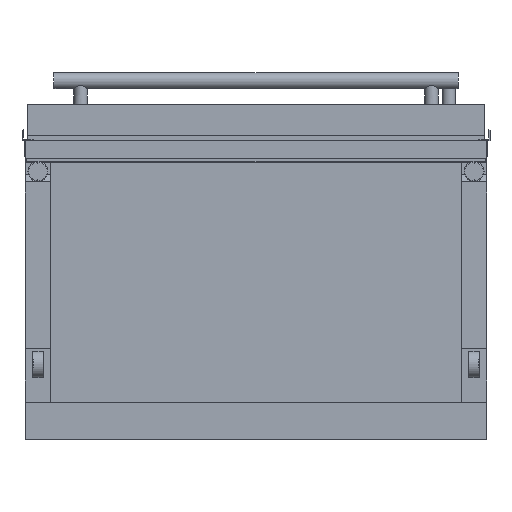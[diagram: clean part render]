
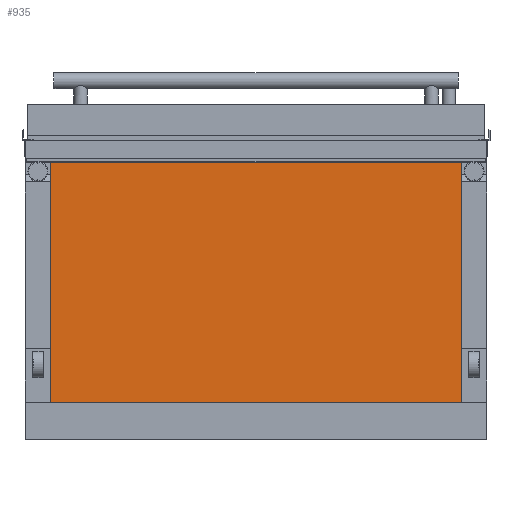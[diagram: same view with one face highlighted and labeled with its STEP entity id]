
A CAD part, front view. The second image highlights one B-rep face of the part: STEP entity #935.
In plain terms, the highlighted planar face has unit normal (0, -1, 0).
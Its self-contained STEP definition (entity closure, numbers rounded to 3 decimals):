
#10 = VERTEX_POINT ( 'NONE', #15574 ) ;
#249 = LINE ( 'NONE', #14571, #7978 ) ;
#519 = DIRECTION ( 'NONE',  ( 0., 0., 1. ) ) ;
#636 = VECTOR ( 'NONE', #943, 1000. ) ;
#863 = ORIENTED_EDGE ( 'NONE', *, *, #1624, .F. ) ;
#935 = ADVANCED_FACE ( 'NONE', ( #14344 ), #5785, .F. ) ;
#943 = DIRECTION ( 'NONE',  ( 1., 0., 0. ) ) ;
#1624 = EDGE_CURVE ( 'NONE', #10, #6230, #4068, .T. ) ;
#2436 = CARTESIAN_POINT ( 'NONE',  ( 433., -928.35, -210.4 ) ) ;
#3219 = AXIS2_PLACEMENT_3D ( 'NONE', #14969, #4415, #519 ) ;
#3294 = EDGE_CURVE ( 'NONE', #7184, #12279, #7673, .T. ) ;
#4068 = LINE ( 'NONE', #9998, #636 ) ;
#4415 = DIRECTION ( 'NONE',  ( 0., 1., 0. ) ) ;
#4807 = ORIENTED_EDGE ( 'NONE', *, *, #7963, .F. ) ;
#4879 = CARTESIAN_POINT ( 'NONE',  ( 386., -928.35, 240. ) ) ;
#5085 = CARTESIAN_POINT ( 'NONE',  ( -386., -928.35, -280. ) ) ;
#5427 = CARTESIAN_POINT ( 'NONE',  ( -386., -928.35, -210.4 ) ) ;
#5785 = PLANE ( 'NONE',  #3219 ) ;
#6230 = VERTEX_POINT ( 'NONE', #4879 ) ;
#6954 = VECTOR ( 'NONE', #10349, 1000. ) ;
#7184 = VERTEX_POINT ( 'NONE', #5427 ) ;
#7354 = EDGE_LOOP ( 'NONE', ( #4807, #9775, #15357, #863 ) ) ;
#7673 = LINE ( 'NONE', #2436, #13431 ) ;
#7963 = EDGE_CURVE ( 'NONE', #7184, #10, #8599, .T. ) ;
#7978 = VECTOR ( 'NONE', #16248, 1000. ) ;
#8599 = LINE ( 'NONE', #5085, #6954 ) ;
#9775 = ORIENTED_EDGE ( 'NONE', *, *, #3294, .T. ) ;
#9998 = CARTESIAN_POINT ( 'NONE',  ( 386., -928.35, 240. ) ) ;
#10349 = DIRECTION ( 'NONE',  ( 0., 0., 1. ) ) ;
#12279 = VERTEX_POINT ( 'NONE', #16949 ) ;
#12902 = DIRECTION ( 'NONE',  ( 1., 0., 0. ) ) ;
#12933 = EDGE_CURVE ( 'NONE', #12279, #6230, #249, .T. ) ;
#13431 = VECTOR ( 'NONE', #12902, 1000. ) ;
#14344 = FACE_OUTER_BOUND ( 'NONE', #7354, .T. ) ;
#14571 = CARTESIAN_POINT ( 'NONE',  ( 386., -928.35, -280. ) ) ;
#14969 = CARTESIAN_POINT ( 'NONE',  ( 386., -928.35, -280. ) ) ;
#15357 = ORIENTED_EDGE ( 'NONE', *, *, #12933, .T. ) ;
#15574 = CARTESIAN_POINT ( 'NONE',  ( -386., -928.35, 240. ) ) ;
#16248 = DIRECTION ( 'NONE',  ( 0., 0., 1. ) ) ;
#16949 = CARTESIAN_POINT ( 'NONE',  ( 386., -928.35, -210.4 ) ) ;
